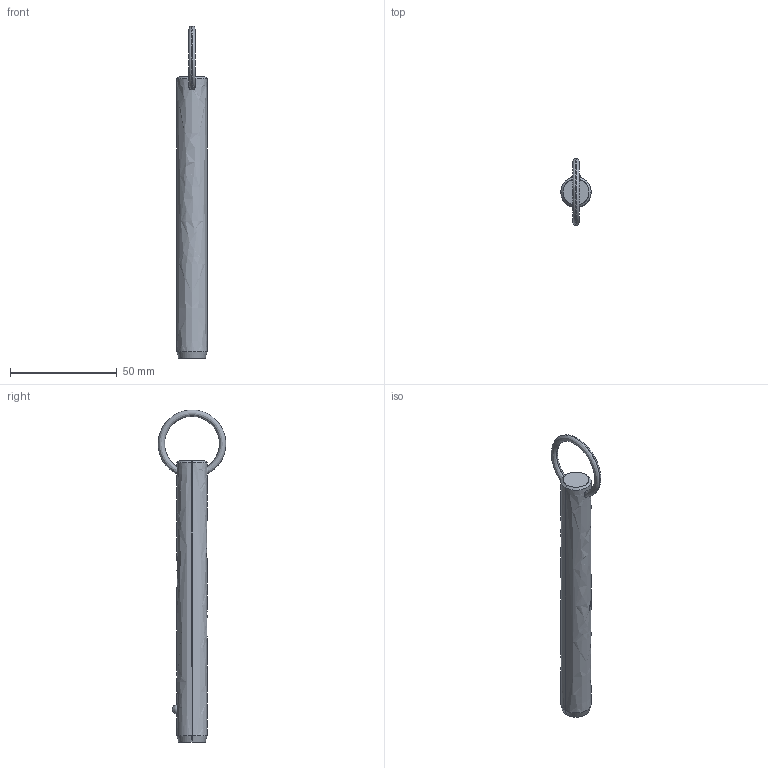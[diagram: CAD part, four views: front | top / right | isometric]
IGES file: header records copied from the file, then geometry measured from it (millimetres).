
Start section: SolidWorks IGES file using analytic representation for surfaces
Global section: file name: C:\Users\liam_\OneDrive\Documents\WORK\Work for WixRoyd\Job Files\J-00019 - Matt Davis CAD Checking\04. CAD Drawings\automotion20190605\P1250.2_v2\P1250.2_v2_20190729_IGES\P1250.056-420.igs; native system: SolidWorks 2017; preprocessor: SolidWorks 2017; author: liam_; date: 190729.232238; units: millimetre
Bounding box: 14.2 x 31.7 x 155.79 mm (x, y, z)
Surface area: 6854.5 mm2 (no closed solid volume)
Topology: 0 solids, 0 shells, 12 faces, 285 edges, 283 vertices
Faces by surface type: revolution 8, bspline 4
